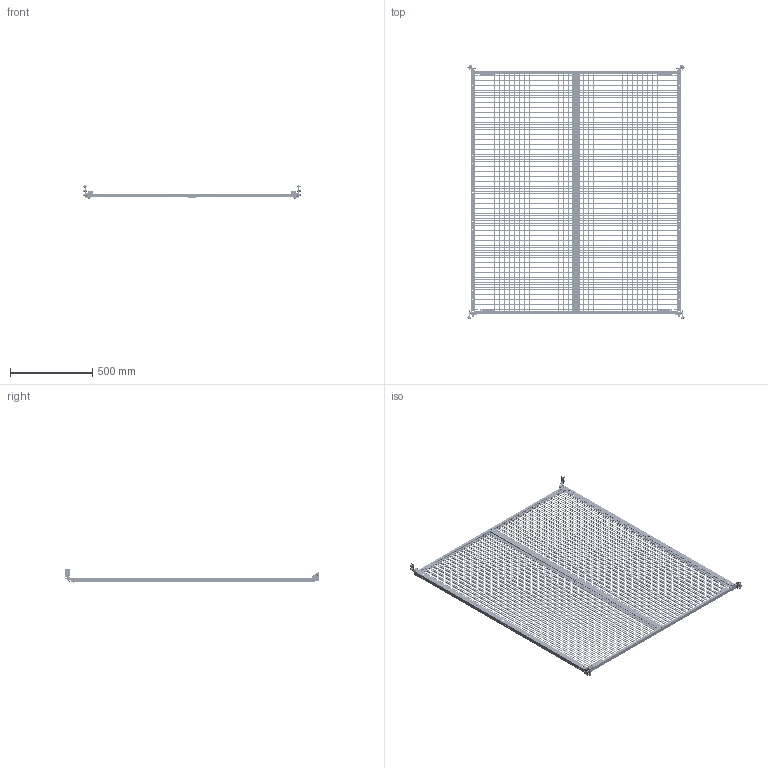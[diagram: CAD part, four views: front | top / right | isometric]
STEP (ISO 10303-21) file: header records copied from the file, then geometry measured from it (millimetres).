
FILE_DESCRIPTION (( 'STEP AP203' ), '1' );
FILE_NAME ('R5NPCEP16140.STEP', '2025-03-26T10:17:19', ( '' ), ( '' ), 'SwSTEP 2.0', 'SolidWorks 2022', '' );
FILE_SCHEMA (( 'CONFIG_CONTROL_DESIGN' ));
Length unit declared in the file: millimetre
Products named in the file (24): RB.2709.00.00.0; RB.0056.00.02.1; М6 D87181 Zinc_In a tightened position (1.5 mm); RB.2721.00.01.0_-04; M6 MGR-MKO-0625_1,5mm (thread); RB.2684.00.00.0 СБ_-01; RB.2814.00.00.0 СБ_-01; RB.2721.00.00.0 СБ_-04; M8x20 DIN 912 HX cl.4,8 Zinc_stright; M6x16 DIN 7985 Torx cl.8,8 Zinc_stright; AC00C237; M8 DIN 6923 cl.8,0 Zinc_straight; RB.2814.00.00.0 СБ; RB.2684.00.00.0 СБ; M6x16 DIN 912 HX cl.4,8 Zinc_thread; RB.2684.00.01.0; RB.1499.00.03.0; 003-006-19 GOST 9833-73; R5NPCEP16140; RB.2684.00.03.0; RB.2697.00.00.0; RB.2814.00.01.0; RB.2814.00.01.0_-01; RB.2684.00.01.0_-01
Assembly tree (57 placements, depth 3):
  R5NPCEP16140
    RB.2814.00.00.0 СБ_-01
      RB.2814.00.01.0_-01
      M6 MGR-MKO-0625_1,5mm (thread)
    RB.2814.00.00.0 СБ
      RB.2814.00.01.0
      M6 MGR-MKO-0625_1,5mm (thread)
    M6x16 DIN 912 HX cl.4,8 Zinc_thread  x2
    AC00C237  x2
    RB.2684.00.00.0 СБ_-01
      RB.2684.00.01.0_-01
      RB.2684.00.03.0
      RB.1499.00.03.0
      RB.2697.00.00.0
      003-006-19 GOST 9833-73  x2
    RB.2684.00.00.0 СБ
      RB.2684.00.01.0
      RB.2684.00.03.0
      RB.1499.00.03.0
      003-006-19 GOST 9833-73  x2
      RB.2697.00.00.0
    M6x16 DIN 7985 Torx cl.8,8 Zinc_stright  x8
    М6 D87181 Zinc_In a tightened position (1.5 mm)  x8
    RB.2709.00.00.0  x2
    RB.2721.00.00.0 СБ_-04
      RB.2721.00.01.0_-04  x2
      RB.0056.00.02.1  x2
      M8 DIN 6923 cl.8,0 Zinc_straight  x5
      M8x20 DIN 912 HX cl.4,8 Zinc_stright  x5
Bounding box: 1328.42 x 1550.46 x 84.5 mm (x, y, z)
Volume: 3000365.7 mm3; surface area: 3121759.1 mm2
Topology: 52 solids, 52 shells, 17978 faces, 52997 edges, 35052 vertices
Faces by surface type: plane 16729, cylinder 537, bspline 316, cone 241, torus 147, sphere 8
Full cylindrical faces by diameter (mm): 0.6 x12, 2.3 x4, 2.5 x4, 3.8 x6, 4 x2, 4.2 x4, 4.92 x14, 5 x8, 6 x64, 6.5 x8, 6.7 x2, 6.8 x5, 7 x12, 7.5 x2, 8 x11, 8.3 x8, 9 x16, 10 x4, 12 x26, 13 x5, 15 x6
Entity records: 291678 total; most frequent: CARTESIAN_POINT 53860, ORIENTED_EDGE 49932, DIRECTION 42196, EDGE_CURVE 24966, LINE 24380, VECTOR 24380, VERTEX_POINT 16693, EDGE_LOOP 12665
